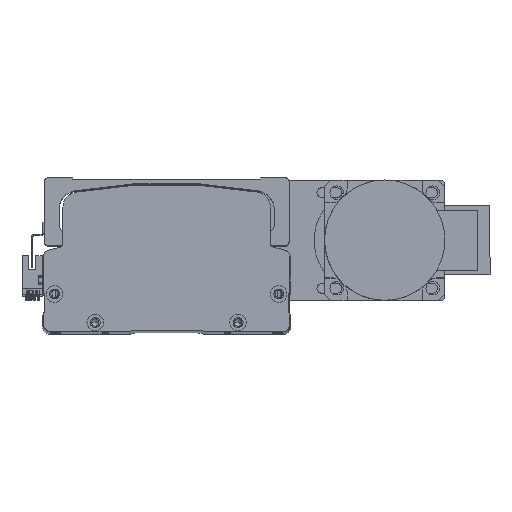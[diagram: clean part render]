
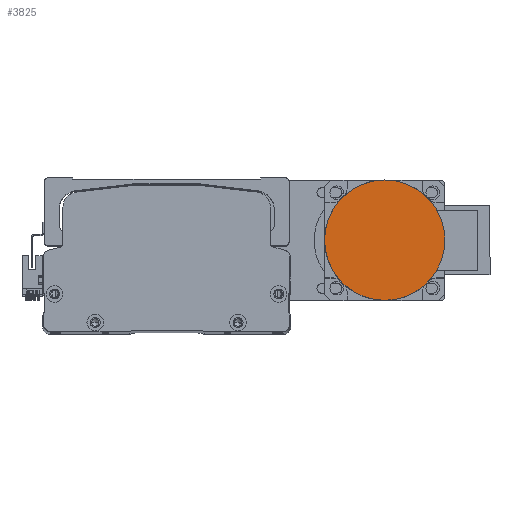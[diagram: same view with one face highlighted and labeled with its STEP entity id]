
A CAD part, top view. The second image highlights one B-rep face of the part: STEP entity #3825.
In plain terms, the highlighted planar face has unit normal (0, 0, 1) as drawn and (0, -1, 0) by its records, which use the part's own axes.
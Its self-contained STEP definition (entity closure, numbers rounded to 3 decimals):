
#1313 = FACE_OUTER_BOUND ( 'NONE', #36179, .T. ) ;
#3825 = ADVANCED_FACE ( 'NONE', ( #1313 ), #32082, .F. ) ;
#6777 = VERTEX_POINT ( 'NONE', #9162 ) ;
#6915 = AXIS2_PLACEMENT_3D ( 'NONE', #16301, #49575, #21056 ) ;
#8310 = DIRECTION ( 'NONE',  ( 0., 1., 0. ) ) ;
#9162 = CARTESIAN_POINT ( 'NONE',  ( 0., -27., -40. ) ) ;
#16301 = CARTESIAN_POINT ( 'NONE',  ( 0., -27., 0. ) ) ;
#19620 = EDGE_CURVE ( 'NONE', #58409, #6777, #22957, .T. ) ;
#19722 = ORIENTED_EDGE ( 'NONE', *, *, #19620, .T. ) ;
#21056 = DIRECTION ( 'NONE',  ( 0., 0., -1. ) ) ;
#22957 = CIRCLE ( 'NONE', #26536, 40. ) ;
#24161 = CARTESIAN_POINT ( 'NONE',  ( 0., -27., 0. ) ) ;
#26536 = AXIS2_PLACEMENT_3D ( 'NONE', #24161, #57436, #28985 ) ;
#27486 = CARTESIAN_POINT ( 'NONE',  ( 0., -27., 40. ) ) ;
#28985 = DIRECTION ( 'NONE',  ( 0., 0., -1. ) ) ;
#32082 = PLANE ( 'NONE',  #47922 ) ;
#36179 = EDGE_LOOP ( 'NONE', ( #51830, #19722 ) ) ;
#41642 = DIRECTION ( 'NONE',  ( 0., 0., 1. ) ) ;
#46199 = CARTESIAN_POINT ( 'NONE',  ( 0., -27., 0. ) ) ;
#47922 = AXIS2_PLACEMENT_3D ( 'NONE', #46199, #8310, #41642 ) ;
#49575 = DIRECTION ( 'NONE',  ( 0., -1., 0. ) ) ;
#50890 = CIRCLE ( 'NONE', #6915, 40. ) ;
#51830 = ORIENTED_EDGE ( 'NONE', *, *, #57013, .T. ) ;
#57013 = EDGE_CURVE ( 'NONE', #6777, #58409, #50890, .T. ) ;
#57436 = DIRECTION ( 'NONE',  ( 0., -1., 0. ) ) ;
#58409 = VERTEX_POINT ( 'NONE', #27486 ) ;
